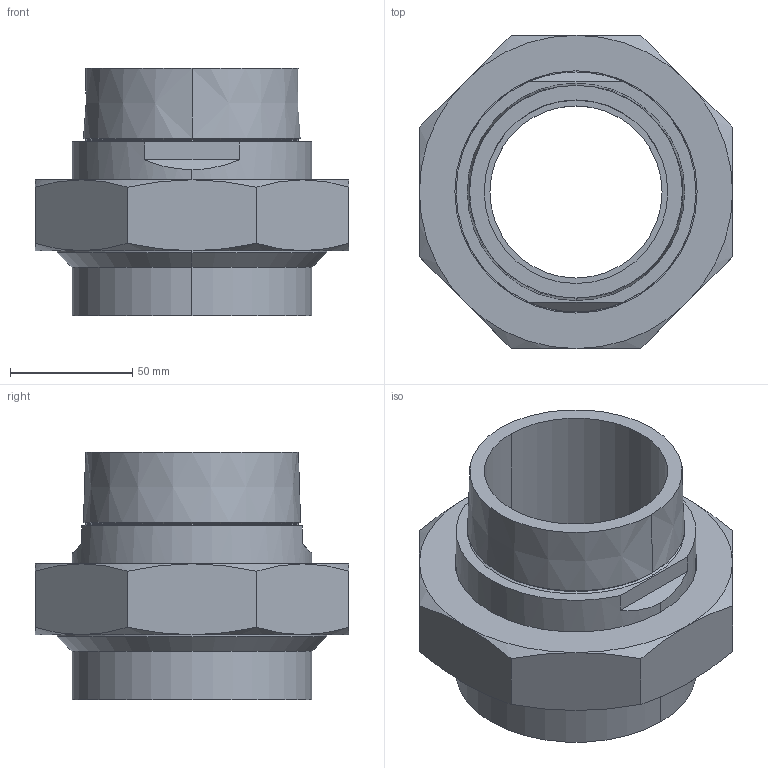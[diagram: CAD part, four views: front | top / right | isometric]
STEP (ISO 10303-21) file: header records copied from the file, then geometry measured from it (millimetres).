
FILE_DESCRIPTION (( 'STEP AP203' ), '1' );
FILE_NAME ('11-5131-11_outokumpu.step', '2015-08-07T11:28:09', ( '' ), ( '' ), 'SwSTEP 2.0', 'SolidWorks 2008', '' );
FILE_SCHEMA (( 'CONFIG_CONTROL_DESIGN' ));
Length unit declared in the file: millimetre
Products named in the file (5): seal-11-5131-11_outokumpu_seal-11-5131-11_outokumpu; 11-5131-11_outokumpu; nut-13-222-155_outokumpu_nut-13-222-155_outokumpu; case-13-555-201_outokumpu_case-13-555-201_outokumpu; nipple-13-444-022_outokumpu_nipple-13-444-022_outokumpu
Assembly tree (4 placements, depth 2):
  11-5131-11_outokumpu
    nipple-13-444-022_outokumpu_nipple-13-444-022_outokumpu
    case-13-555-201_outokumpu_case-13-555-201_outokumpu
    nut-13-222-155_outokumpu_nut-13-222-155_outokumpu
    seal-11-5131-11_outokumpu_seal-11-5131-11_outokumpu
Bounding box: 128 x 128 x 101 mm (x, y, z)
Volume: 399858.9 mm3; surface area: 115032.9 mm2
Topology: 4 solids, 4 shells, 76 faces, 162 edges, 98 vertices
Faces by surface type: cone 26, plane 24, cylinder 22, torus 4
Entity records: 2743 total; most frequent: CARTESIAN_POINT 579, DIRECTION 370, ORIENTED_EDGE 324, EDGE_CURVE 162, AXIS2_PLACEMENT_3D 161, VERTEX_POINT 98, EDGE_LOOP 88, CIRCLE 78
